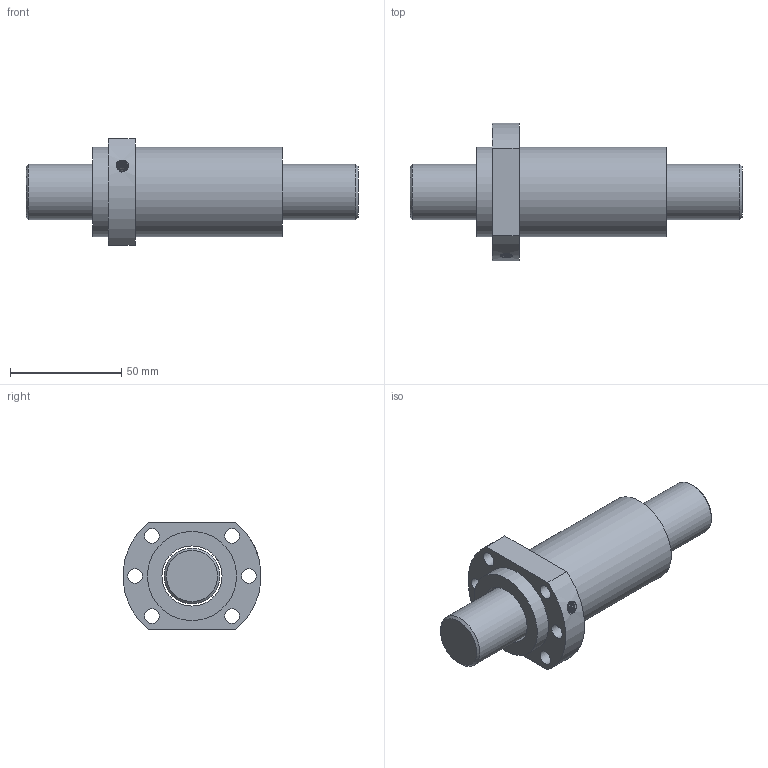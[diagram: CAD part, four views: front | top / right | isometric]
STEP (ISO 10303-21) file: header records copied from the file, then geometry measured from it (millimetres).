
FILE_DESCRIPTION(/* description */ ('Unknown','CAx-IF Rec.Pracs.---Representation and Presentation of Product Manufacturing Information (PMI)---4.0---2014-10-13','CAx-IF Rec.Pracs.---3D Tessellated Geometry---0.4---2014-09-14','2;1'),/* implementation_level */ '2;1');
FILE_NAME(/* name */ 'SFA2525-2.8',/* time_stamp */ '2020-12-08T08:35:05+08:00',/* author */ ('Unknown'),/* organization */ ('Unknown'),/* preprocessor_version */ 'ST-DEVELOPER v16.7',/* originating_system */ 'Solid Edge',/* authorisation */ 'Unknown');
FILE_SCHEMA (('AP242_MANAGED_MODEL_BASED_3D_ENGINEERING_MIM_LF { 1 0 10303 442 1 1 4 }'));
Length unit declared in the file: millimetre
Products named in the file (1): SFA2525-2.8
Bounding box: 149 x 61.8 x 48 mm (x, y, z)
Volume: 145091.6 mm3; surface area: 36753.6 mm2
Topology: 2 solids, 2 shells, 30 faces, 69 edges, 45 vertices
Faces by surface type: cylinder 16, plane 9, cone 3, bspline 2
Full cylindrical faces by diameter (mm): 4 x1, 4.917 x1, 6.6 x6, 25 x1, 27 x1, 40 x2
Entity records: 2932 total; most frequent: CARTESIAN_POINT 2230, DIRECTION 134, ORIENTED_EDGE 100, AXIS2_PLACEMENT_3D 64, EDGE_LOOP 63, FACE_BOUND 63, EDGE_CURVE 50, VERTEX_POINT 41
